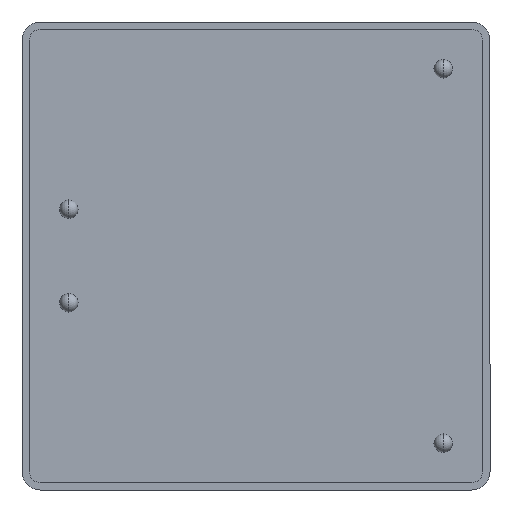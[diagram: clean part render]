
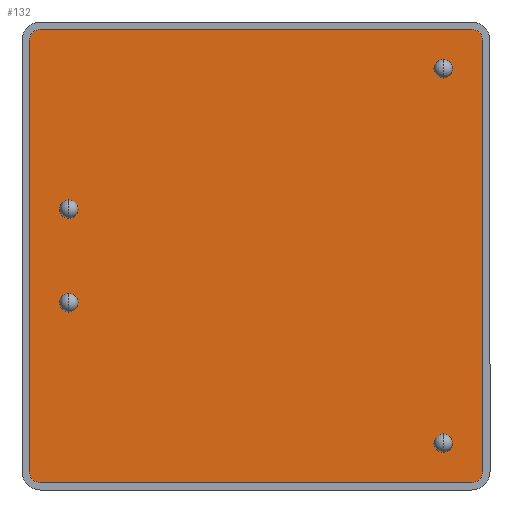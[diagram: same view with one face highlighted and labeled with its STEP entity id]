
A CAD part, front view. The second image highlights one B-rep face of the part: STEP entity #132.
In plain terms, the highlighted planar face has unit normal (0, -1, 0).
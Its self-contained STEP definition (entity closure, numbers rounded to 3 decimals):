
#33 = PLANE ( 'NONE',  #459 ) ;
#40 = CIRCLE ( 'NONE', #1148, 0.6 ) ;
#89 = CIRCLE ( 'NONE', #583, 0.6 ) ;
#111 = CARTESIAN_POINT ( 'NONE',  ( 12.3, 0.5, -11.7 ) ) ;
#115 = CARTESIAN_POINT ( 'NONE',  ( -12.3, 0.5, -11.7 ) ) ;
#132 = ADVANCED_FACE ( 'NONE', ( #1513 ), #33, .F. ) ;
#139 = EDGE_CURVE ( 'NONE', #699, #1777, #1190, .T. ) ;
#148 = VERTEX_POINT ( 'NONE', #1418 ) ;
#203 = EDGE_CURVE ( 'NONE', #379, #148, #1151, .T. ) ;
#223 = DIRECTION ( 'NONE',  ( 0., 0., -1. ) ) ;
#238 = VERTEX_POINT ( 'NONE', #1468 ) ;
#292 = VECTOR ( 'NONE', #1681, 1000. ) ;
#314 = CIRCLE ( 'NONE', #396, 0.6 ) ;
#352 = DIRECTION ( 'NONE',  ( -1., 0., 0. ) ) ;
#359 = DIRECTION ( 'NONE',  ( 0., 0., 1. ) ) ;
#379 = VERTEX_POINT ( 'NONE', #860 ) ;
#396 = AXIS2_PLACEMENT_3D ( 'NONE', #1589, #994, #359 ) ;
#432 = ORIENTED_EDGE ( 'NONE', *, *, #2020, .T. ) ;
#434 = LINE ( 'NONE', #1317, #850 ) ;
#445 = CARTESIAN_POINT ( 'NONE',  ( -11.7, 0.5, -12.3 ) ) ;
#459 = AXIS2_PLACEMENT_3D ( 'NONE', #996, #1899, #1577 ) ;
#482 = EDGE_LOOP ( 'NONE', ( #1337, #1228, #432, #1389, #1805, #1216, #1867, #1077 ) ) ;
#523 = DIRECTION ( 'NONE',  ( 0., -1., 0. ) ) ;
#555 = AXIS2_PLACEMENT_3D ( 'NONE', #1282, #523, #1593 ) ;
#583 = AXIS2_PLACEMENT_3D ( 'NONE', #1595, #1930, #223 ) ;
#599 = DIRECTION ( 'NONE',  ( 0., 0., -1. ) ) ;
#618 = LINE ( 'NONE', #445, #292 ) ;
#699 = VERTEX_POINT ( 'NONE', #1384 ) ;
#774 = VECTOR ( 'NONE', #599, 1000. ) ;
#850 = VECTOR ( 'NONE', #1790, 1000. ) ;
#860 = CARTESIAN_POINT ( 'NONE',  ( -12.3, 0.5, -11.7 ) ) ;
#913 = VERTEX_POINT ( 'NONE', #1270 ) ;
#944 = VERTEX_POINT ( 'NONE', #1769 ) ;
#969 = CARTESIAN_POINT ( 'NONE',  ( -11.7, 0.5, 12.3 ) ) ;
#994 = DIRECTION ( 'NONE',  ( 0., -1., 0. ) ) ;
#996 = CARTESIAN_POINT ( 'NONE',  ( -11.7, 0.5, -11.7 ) ) ;
#1004 = EDGE_CURVE ( 'NONE', #1780, #944, #434, .T. ) ;
#1077 = ORIENTED_EDGE ( 'NONE', *, *, #1379, .T. ) ;
#1148 = AXIS2_PLACEMENT_3D ( 'NONE', #1559, #1568, #1697 ) ;
#1151 = CIRCLE ( 'NONE', #555, 0.6 ) ;
#1190 = LINE ( 'NONE', #969, #1706 ) ;
#1216 = ORIENTED_EDGE ( 'NONE', *, *, #139, .T. ) ;
#1228 = ORIENTED_EDGE ( 'NONE', *, *, #1882, .T. ) ;
#1270 = CARTESIAN_POINT ( 'NONE',  ( 11.7, 0.5, -12.3 ) ) ;
#1282 = CARTESIAN_POINT ( 'NONE',  ( -11.7, 0.5, -11.7 ) ) ;
#1317 = CARTESIAN_POINT ( 'NONE',  ( 12.3, 0.5, -11.7 ) ) ;
#1337 = ORIENTED_EDGE ( 'NONE', *, *, #203, .T. ) ;
#1379 = EDGE_CURVE ( 'NONE', #238, #379, #1925, .T. ) ;
#1384 = CARTESIAN_POINT ( 'NONE',  ( 11.7, 0.5, 12.3 ) ) ;
#1389 = ORIENTED_EDGE ( 'NONE', *, *, #1004, .T. ) ;
#1418 = CARTESIAN_POINT ( 'NONE',  ( -11.7, 0.5, -12.3 ) ) ;
#1443 = EDGE_CURVE ( 'NONE', #944, #699, #40, .T. ) ;
#1468 = CARTESIAN_POINT ( 'NONE',  ( -12.3, 0.5, 11.7 ) ) ;
#1513 = FACE_OUTER_BOUND ( 'NONE', #482, .T. ) ;
#1559 = CARTESIAN_POINT ( 'NONE',  ( 11.7, 0.5, 11.7 ) ) ;
#1568 = DIRECTION ( 'NONE',  ( 0., -1., 0. ) ) ;
#1577 = DIRECTION ( 'NONE',  ( 0., 0., 1. ) ) ;
#1589 = CARTESIAN_POINT ( 'NONE',  ( -11.7, 0.5, 11.7 ) ) ;
#1593 = DIRECTION ( 'NONE',  ( 0., 0., 1. ) ) ;
#1595 = CARTESIAN_POINT ( 'NONE',  ( 11.7, 0.5, -11.7 ) ) ;
#1621 = EDGE_CURVE ( 'NONE', #1777, #238, #314, .T. ) ;
#1681 = DIRECTION ( 'NONE',  ( 1., 0., 0. ) ) ;
#1697 = DIRECTION ( 'NONE',  ( 0., 0., 1. ) ) ;
#1706 = VECTOR ( 'NONE', #352, 1000. ) ;
#1769 = CARTESIAN_POINT ( 'NONE',  ( 12.3, 0.5, 11.7 ) ) ;
#1777 = VERTEX_POINT ( 'NONE', #1971 ) ;
#1780 = VERTEX_POINT ( 'NONE', #111 ) ;
#1790 = DIRECTION ( 'NONE',  ( 0., 0., 1. ) ) ;
#1805 = ORIENTED_EDGE ( 'NONE', *, *, #1443, .T. ) ;
#1867 = ORIENTED_EDGE ( 'NONE', *, *, #1621, .T. ) ;
#1882 = EDGE_CURVE ( 'NONE', #148, #913, #618, .T. ) ;
#1899 = DIRECTION ( 'NONE',  ( 0., 1., 0. ) ) ;
#1925 = LINE ( 'NONE', #115, #774 ) ;
#1930 = DIRECTION ( 'NONE',  ( 0., -1., 0. ) ) ;
#1971 = CARTESIAN_POINT ( 'NONE',  ( -11.7, 0.5, 12.3 ) ) ;
#2020 = EDGE_CURVE ( 'NONE', #913, #1780, #89, .T. ) ;
